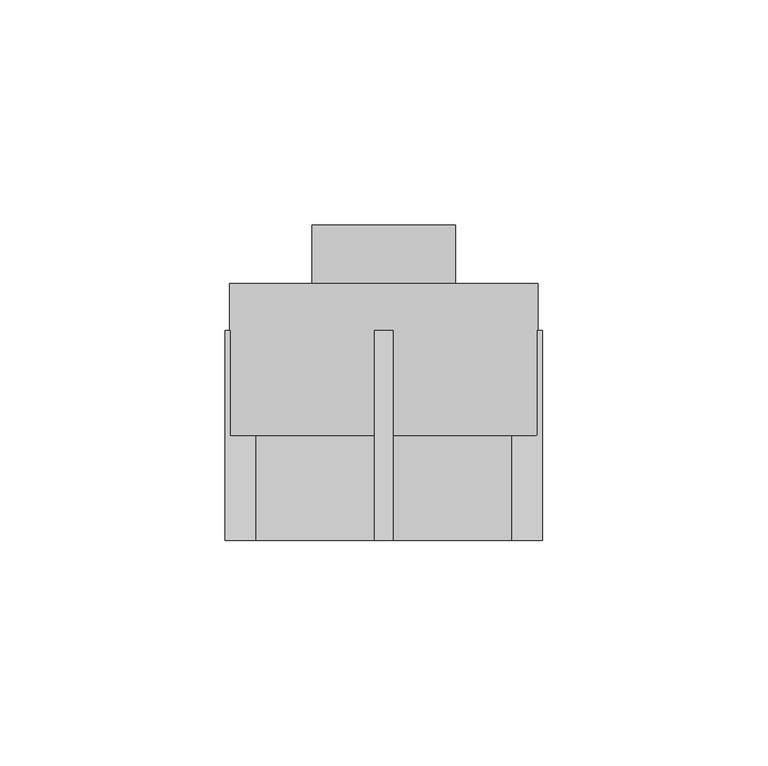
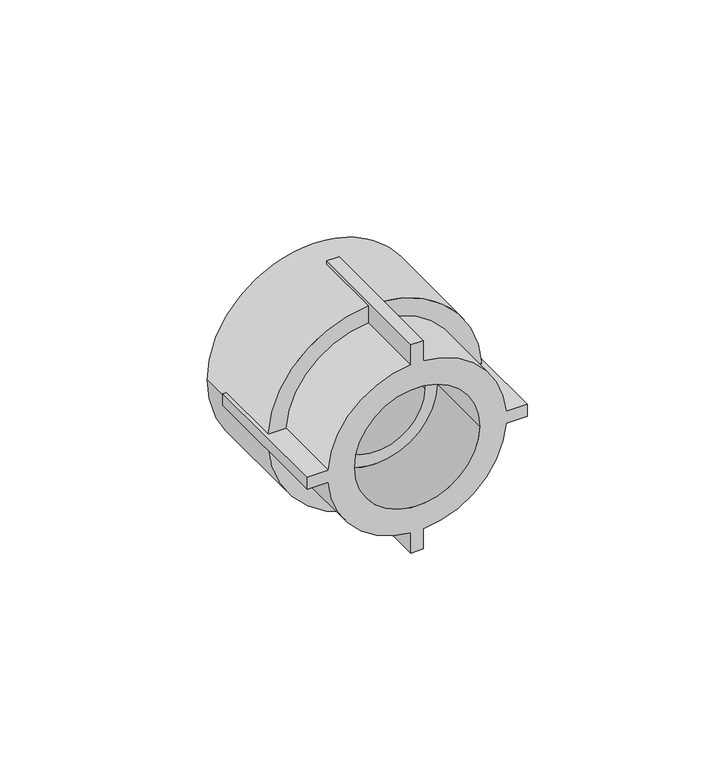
"""IFC4 building model written with IfcOpenShell, lengths in millimetres: pipe fitting geometry, EGB_VASEN_ PPR_Entronque rosca hembra WXR102 : Entronque rosca hembra WXR102."""

from ifc_helpers import new_model, si_unit, point, frame, origin, origin_2d, place, context, project, spatial, polyline, circle_curve, trimmed, segment, composite_curve, outline, extrude, source, transform, mapped, element, save
from ifc_brep_helpers import plane_surface, cylinder_surface, revolved_surface, advanced_brep


def pipe_fitting_7eee1502(model_context):
    return source(origin(), model_context, "Body", "SolidModel", [
        advanced_brep(
        [(2.0, -23.3333333, 35.2), (-2.0, -23.3333333, 35.2), (-2.0, -23.3333333, 28.429738), (-28.429738, -23.3333333, 2.0), (-35.2, -23.3333333, 2.0), (-35.2, -23.3333333, -2.0), (-28.429738, -23.3333333, -2.0), (-2.0, -23.3333333, -28.429738), (-2.0, -23.3333333, -35.2), (2.0, -23.3333333, -35.2), (2.0, -23.3333333, -28.429738), (28.429738, -23.3333333, -2.0), (35.2, -23.3333333, -2.0), (35.2, -23.3333333, 2.0), (28.429738, -23.3333333, 2.0), (2.0, -23.3333333, 28.429738), (-20.0, -23.3333333, 0.0), (20.0, -23.3333333, 0.0), (-2.0, 23.3333333, 35.2), (2.0, 23.3333333, 35.2), (2.0, 23.3333333, 34.1414704), (-2.0, 23.3333333, 34.1414704), (2.0, 23.3333333, -35.2), (-2.0, 23.3333333, -35.2), (-2.0, 23.3333333, -34.1414704), (2.0, 23.3333333, -34.1414704), (35.2, 23.3333333, 2.0), (35.2, 23.3333333, -2.0), (34.1414704, 23.3333333, -2.0), (34.2, 23.3333333, 0.0), (34.1414704, 23.3333333, 2.0), (-35.2, 23.3333333, -2.0), (-35.2, 23.3333333, 2.0), (-34.1414704, 23.3333333, 2.0), (-34.2, 23.3333333, 0.0), (-34.1414704, 23.3333333, -2.0), (2.0, 0.0, 28.429738), (2.0, 0.0, 34.1414704), (-2.0, 0.0, 34.1414704), (-2.0, 0.0, 28.429738), (2.0, 0.0, -34.1414704), (2.0, 0.0, -28.429738), (-2.0, 0.0, -28.429738), (-2.0, 0.0, -34.1414704), (28.429738, 0.0, -2.0), (34.1414704, 0.0, -2.0), (34.1414704, 0.0, 2.0), (28.429738, 0.0, 2.0), (-34.1414704, 0.0, -2.0), (-28.429738, 0.0, -2.0), (-28.429738, 0.0, 2.0), (-34.1414704, 0.0, 2.0), (-20.0, 0.0, 0.0), (20.0, 0.0, 0.0), (-15.875, 0.0, 0.0), (15.875, 0.0, 0.0), (-34.2, 33.6666667, 0.0), (34.2, 33.6666667, 0.0), (-15.875, 33.6666667, 0.0), (15.875, 33.6666667, 0.0)],
        [
            (0, 1),
            (1, 2),
            (2, 3, circle_curve(frame((0.0, -23.3333333, 0.0), z_axis=(0.0, -1.0, 0.0), x_axis=(1.0, 0.0, 0.0)), 28.5)),
            (3, 4),
            (4, 5),
            (5, 6),
            (6, 7, circle_curve(frame((0.0, -23.3333333, 0.0), z_axis=(0.0, -1.0, 0.0), x_axis=(1.0, 0.0, 0.0)), 28.5)),
            (7, 8),
            (8, 9),
            (9, 10),
            (10, 11, circle_curve(frame((0.0, -23.3333333, 0.0), z_axis=(0.0, -1.0, 0.0), x_axis=(1.0, 0.0, 0.0)), 28.5)),
            (11, 12),
            (12, 13),
            (13, 14),
            (14, 15, circle_curve(frame((0.0, -23.3333333, 0.0), z_axis=(0.0, -1.0, 0.0), x_axis=(1.0, 0.0, 0.0)), 28.5)),
            (15, 0),
            (16, 17, circle_curve(frame((0.0, -23.3333333, 0.0), z_axis=(0.0, 1.0, 0.0), x_axis=(1.0, 0.0, 0.0)), 20.0)),
            (17, 16, circle_curve(frame((0.0, -23.3333333, 0.0), z_axis=(0.0, 1.0, 0.0), x_axis=(1.0, 0.0, 0.0)), 20.0)),
            (18, 19),
            (19, 20),
            (20, 21, circle_curve(frame((0.0, 23.3333333, 0.0), z_axis=(0.0, -1.0, 0.0), x_axis=(1.0, 0.0, 0.0)), 34.2)),
            (21, 18),
            (22, 23),
            (23, 24),
            (24, 25, circle_curve(frame((0.0, 23.3333333, 0.0), z_axis=(0.0, -1.0, 0.0), x_axis=(1.0, 0.0, 0.0)), 34.2)),
            (25, 22),
            (26, 27),
            (27, 28),
            (28, 29, circle_curve(frame((0.0, 23.3333333, 0.0), z_axis=(0.0, -1.0, 0.0), x_axis=(1.0, 0.0, 0.0)), 34.2)),
            (29, 30, circle_curve(frame((0.0, 23.3333333, 0.0), z_axis=(0.0, -1.0, 0.0), x_axis=(1.0, 0.0, 0.0)), 34.2)),
            (30, 26),
            (31, 32),
            (32, 33),
            (33, 34, circle_curve(frame((0.0, 23.3333333, 0.0), z_axis=(0.0, -1.0, 0.0), x_axis=(1.0, 0.0, 0.0)), 34.2)),
            (34, 35, circle_curve(frame((0.0, 23.3333333, 0.0), z_axis=(0.0, -1.0, 0.0), x_axis=(1.0, 0.0, 0.0)), 34.2)),
            (35, 31),
            (19, 0),
            (15, 36),
            (36, 37),
            (37, 20),
            (18, 1),
            (21, 38),
            (38, 39),
            (39, 2),
            (8, 23),
            (22, 9),
            (25, 40),
            (40, 41),
            (41, 10),
            (7, 42),
            (42, 43),
            (43, 24),
            (27, 12),
            (11, 44),
            (44, 45),
            (45, 28),
            (26, 13),
            (30, 46),
            (46, 47),
            (47, 14),
            (5, 31),
            (35, 48),
            (48, 49),
            (49, 6),
            (32, 4),
            (3, 50),
            (50, 51),
            (51, 33),
            (49, 42, circle_curve(frame((0.0, 0.0, 0.0), z_axis=(0.0, -1.0, 0.0), x_axis=(1.0, 0.0, 0.0)), 28.5)),
            (41, 44, circle_curve(frame((0.0, 0.0, 0.0), z_axis=(0.0, -1.0, 0.0), x_axis=(1.0, 0.0, 0.0)), 28.5)),
            (39, 50, circle_curve(frame((0.0, 0.0, 0.0), z_axis=(0.0, -1.0, 0.0), x_axis=(1.0, 0.0, 0.0)), 28.5)),
            (47, 36, circle_curve(frame((0.0, 0.0, 0.0), z_axis=(0.0, -1.0, 0.0), x_axis=(1.0, 0.0, 0.0)), 28.5)),
            (16, 52),
            (52, 53, circle_curve(frame((0.0, 0.0, 0.0), z_axis=(0.0, 1.0, 0.0), x_axis=(1.0, 0.0, 0.0)), 20.0)),
            (53, 17),
            (53, 52, circle_curve(frame((0.0, 0.0, 0.0), z_axis=(0.0, 1.0, 0.0), x_axis=(1.0, 0.0, 0.0)), 20.0)),
            (54, 55, circle_curve(frame((0.0, 0.0, 0.0), z_axis=(0.0, 1.0, 0.0), x_axis=(1.0, 0.0, 0.0)), 15.875)),
            (55, 54, circle_curve(frame((0.0, 0.0, 0.0), z_axis=(0.0, 1.0, 0.0), x_axis=(1.0, 0.0, 0.0)), 15.875)),
            (40, 45, circle_curve(frame((0.0, 0.0, 0.0), z_axis=(0.0, -1.0, 0.0), x_axis=(1.0, 0.0, 0.0)), 34.2)),
            (48, 43, circle_curve(frame((0.0, 0.0, 0.0), z_axis=(0.0, -1.0, 0.0), x_axis=(1.0, 0.0, 0.0)), 34.2)),
            (46, 37, circle_curve(frame((0.0, 0.0, 0.0), z_axis=(0.0, -1.0, 0.0), x_axis=(1.0, 0.0, 0.0)), 34.2)),
            (38, 51, circle_curve(frame((0.0, 0.0, 0.0), z_axis=(0.0, -1.0, 0.0), x_axis=(1.0, 0.0, 0.0)), 34.2)),
            (56, 57, circle_curve(frame((0.0, 33.6666667, 0.0), z_axis=(0.0, 1.0, 0.0), x_axis=(1.0, 0.0, 0.0)), 34.2)),
            (57, 56, circle_curve(frame((0.0, 33.6666667, 0.0), z_axis=(0.0, 1.0, 0.0), x_axis=(1.0, 0.0, 0.0)), 34.2)),
            (58, 59, circle_curve(frame((0.0, 33.6666667, 0.0), z_axis=(0.0, -1.0, 0.0), x_axis=(1.0, 0.0, 0.0)), 15.875)),
            (59, 58, circle_curve(frame((0.0, 33.6666667, 0.0), z_axis=(0.0, -1.0, 0.0), x_axis=(1.0, 0.0, 0.0)), 15.875)),
            (57, 29),
            (34, 56),
            (54, 58),
            (59, 55),
        ],
        [
            plane_surface(frame((0.0, -23.3333333, 0.0), z_axis=(0.0, -1.0, 0.0), x_axis=(0.0, 0.0, 1.0))),
            plane_surface(frame((0.0, 23.3333333, 0.0), z_axis=(0.0, 1.0, 0.0), x_axis=(0.0, 0.0, 1.0))),
            plane_surface(frame((2.0, -23.3333333, 27.5), z_axis=(1.0, 0.0, 0.0), x_axis=(0.0, 1.0, 0.0))),
            plane_surface(frame((2.0, -23.3333333, 35.2), z_axis=(0.0, 0.0, 1.0), x_axis=(0.0, 1.0, 0.0))),
            plane_surface(frame((-2.0, -23.3333333, 35.2), z_axis=(-1.0, 0.0, 0.0), x_axis=(0.0, 1.0, 0.0))),
            plane_surface(frame((-2.0, -23.3333333, -35.2), z_axis=(0.0, 0.0, -1.0), x_axis=(0.0, 1.0, 0.0))),
            plane_surface(frame((2.0, -23.3333333, -35.2), z_axis=(1.0, 0.0, 0.0), x_axis=(0.0, 1.0, 0.0))),
            plane_surface(frame((-2.0, -23.3333333, -27.5), z_axis=(-1.0, 0.0, 0.0), x_axis=(0.0, 1.0, 0.0))),
            plane_surface(frame((27.5, -23.3333333, -2.0), z_axis=(0.0, 0.0, -1.0), x_axis=(0.0, 1.0, 0.0))),
            plane_surface(frame((35.2, -23.3333333, -2.0), z_axis=(1.0, 0.0, 0.0), x_axis=(0.0, 1.0, 0.0))),
            plane_surface(frame((35.2, -23.3333333, 2.0), z_axis=(0.0, 0.0, 1.0), x_axis=(0.0, 1.0, 0.0))),
            plane_surface(frame((-35.2, -23.3333333, -2.0), z_axis=(0.0, 0.0, -1.0), x_axis=(0.0, 1.0, 0.0))),
            plane_surface(frame((-27.5, -23.3333333, 2.0), z_axis=(0.0, 0.0, 1.0), x_axis=(0.0, 1.0, 0.0))),
            plane_surface(frame((-35.2, -23.3333333, 2.0), z_axis=(-1.0, 0.0, 0.0), x_axis=(0.0, 1.0, 0.0))),
            cylinder_surface(frame((0.0, 0.0, 0.0), z_axis=(0.0, -1.0, 0.0), x_axis=(1.0, 0.0, 0.0)), 28.5),
            revolved_surface(polyline([(20.0, 0.0, 0.0), (20.0, -23.3333333, 0.0)]), (0.0, 0.0, 0.0), (0.0, 1.0, 0.0)),
            plane_surface(frame((34.2, 0.0, 0.0), z_axis=(0.0, -1.0, 0.0), x_axis=(0.0, 0.0, 1.0))),
            plane_surface(frame((34.2, 33.6666667, 0.0), z_axis=(0.0, 1.0, 0.0), x_axis=(0.0, 0.0, -1.0))),
            cylinder_surface(frame((0.0, 33.6666667, 0.0), z_axis=(0.0, -1.0, 0.0), x_axis=(1.0, 0.0, 0.0)), 34.2),
            revolved_surface(polyline([(15.875, 33.6666667, 0.0), (15.875, 0.0, 0.0)]), (0.0, 0.0, 0.0), (0.0, 1.0, 0.0)),
        ],
        [
            (0, [[1, 2, 3, 4, 5, 6, 7, 8, 9, 10, 11, 12, 13, 14, 15, 16], [17, 18]]),
            (1, [[19, 20, 21, 22]]),
            (1, [[23, 24, 25, 26]]),
            (1, [[27, 28, 29, 30, 31]]),
            (1, [[32, 33, 34, 35, 36]]),
            (2, [[37, -16, 38, 39, 40, -20]]),
            (3, [[-1, -37, -19, 41]]),
            (4, [[-41, -22, 42, 43, 44, -2]]),
            (5, [[-9, 45, -23, 46]]),
            (6, [[-46, -26, 47, 48, 49, -10]]),
            (7, [[-45, -8, 50, 51, 52, -24]]),
            (8, [[53, -12, 54, 55, 56, -28]]),
            (9, [[-13, -53, -27, 57]]),
            (10, [[-57, -31, 58, 59, 60, -14]]),
            (11, [[61, -36, 62, 63, 64, -6]]),
            (12, [[65, -4, 66, 67, 68, -33]]),
            (13, [[-5, -65, -32, -61]]),
            (14, [[-7, -64, 69, -50]]),
            (14, [[-11, -49, 70, -54]]),
            (14, [[-3, -44, 71, -66]]),
            (14, [[-15, -60, 72, -38]]),
            (15, [[-17, 73, 74, 75]]),
            (15, [[-18, -75, 76, -73]]),
            (16, [[-74, -76], [77, 78]]),
            (16, [[79, -55, -70, -48]]),
            (16, [[80, -51, -69, -63]]),
            (16, [[81, -39, -72, -59]]),
            (16, [[82, -67, -71, -43]]),
            (17, [[83, 84], [85, 86]]),
            (18, [[-84, 87, -29, -56, -79, -47, -25, -52, -80, -62, -35, 88]]),
            (18, [[-83, -88, -34, -68, -82, -42, -21, -40, -81, -58, -30, -87]]),
            (19, [[-77, 89, -86, 90]]),
            (19, [[-78, -90, -85, -89]]),
        ],
    ),
        extrude(outline(composite_curve([segment(trimmed(circle_curve(origin_2d(), 15.875), [point((0.0, -15.875))], [point((0.0, 15.875))], False, "CARTESIAN"), True, "CONTINUOUS"), segment(trimmed(circle_curve(origin_2d(), 15.875), [point((0.0, 15.875))], [point((0.0, -15.875))], False, "CARTESIAN"), True, "CONTINUOUS")], self_intersect=False)), frame((0.0, 23.3333333, 0.0), z_axis=(0.0, 1.0, 0.0), x_axis=(0.0, 0.0, 1.0)), (0.0, 0.0, 1.0), 23.3333333),
    ])


if __name__ == "__main__":
    model = new_model("IFC4")
    model_context = context("Model", 3, world=origin())
    ifc_project = project(units=[si_unit("LENGTHUNIT", "METRE", prefix="MILLI")], contexts=[model_context])
    site = spatial("IfcSite", under=ifc_project)
    building = spatial("IfcBuilding", under=site)
    placement = place(None, origin())
    pipe_fitting_shape = pipe_fitting_7eee1502(model_context)
    element("IfcPipeFitting", 1, ObjectType="EGB_VASEN_ PPR_Entronque rosca hembra WXR102 : Entronque rosca hembra WXR102", at=placement, inside=building, context=model_context, shape_type="MappedRepresentation", body=[
        mapped(pipe_fitting_shape, transform((0.0, 0.0, 0.0), x_axis=(1.0, 0.0, 0.0), y_axis=(0.0, 1.0, 0.0), z_axis=(0.0, 0.0, 1.0))),
    ])
    save(model, "model.ifc")
